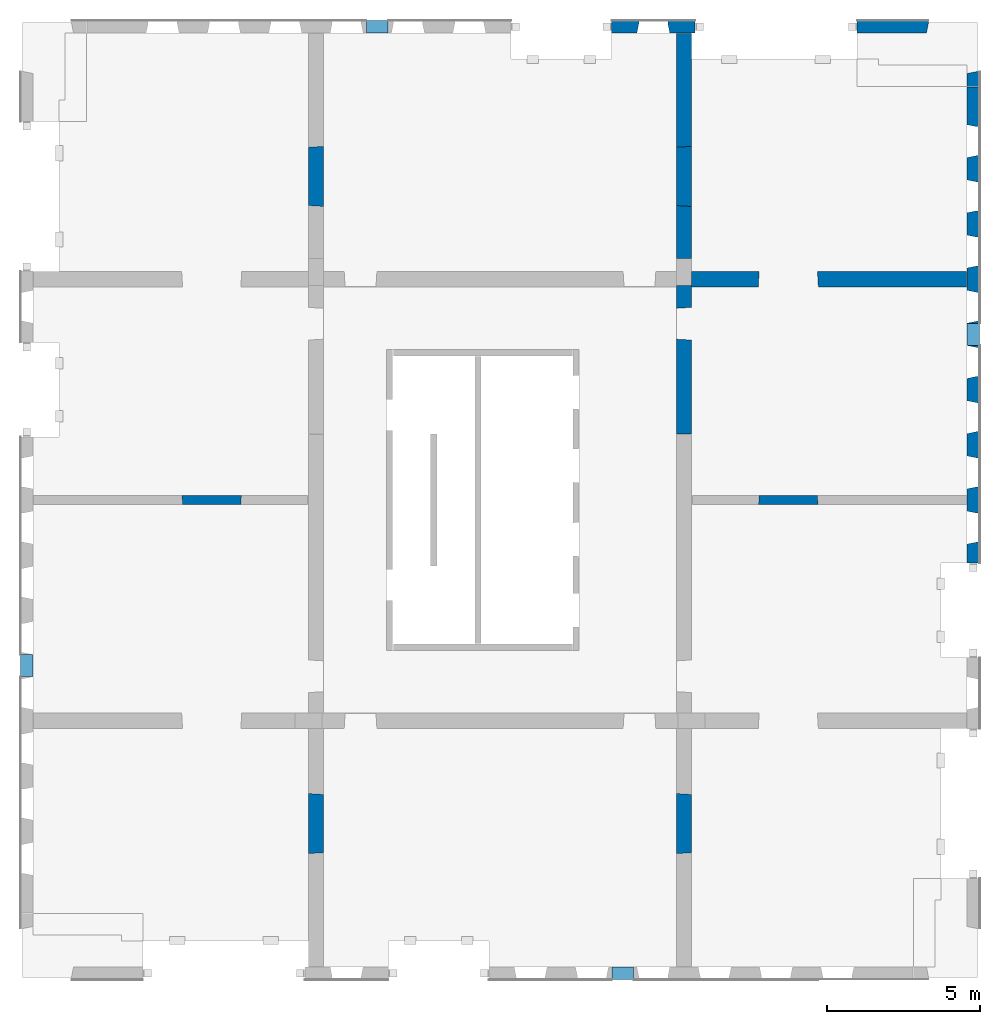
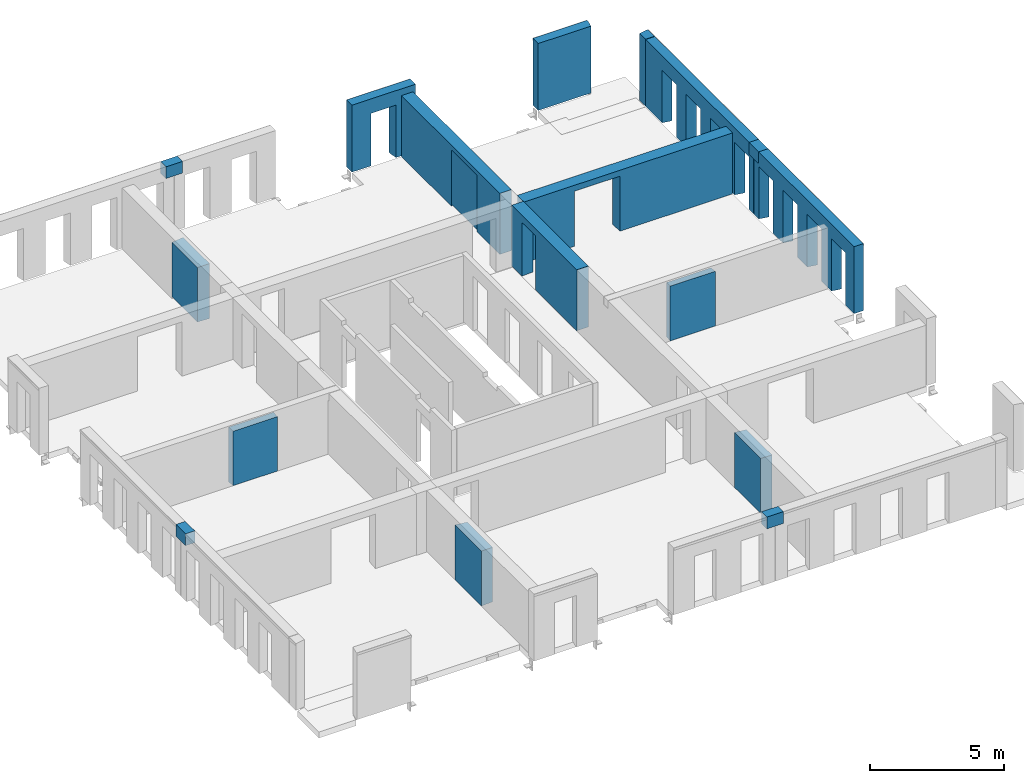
# One storey, part 4 of 6: 18 walls, 16 openings.
"""IFC2X3 building model written with IfcOpenShell, lengths in millimetres."""

from ifc_helpers import new_model, entity, si_unit, converted_unit, derived_unit, direction, frame, frame_2d, origin, place, context, subcontext, project, spatial, rectangle, extrude, faceted_brep, material, layer, layer_set, layer_usage, type_object, element, save


model = new_model("IFC2X3")

# Units and contexts
model_context = context("Model", 3, precision=0.01, world=origin(), true_north=direction((6.12303176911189e-17, 1.0)))
body_context = subcontext(model_context, "Body", "Model", "MODEL_VIEW")
ifc_project = project(units=[si_unit("LENGTHUNIT", "METRE", prefix="MILLI"), si_unit("AREAUNIT", "SQUARE_METRE"), si_unit("VOLUMEUNIT", "CUBIC_METRE"), converted_unit("PLANEANGLEUNIT", "DEGREE", entity("IfcRatioMeasure", 0.0174532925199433), si_unit("PLANEANGLEUNIT", "RADIAN"), dimensions=[0, 0, 0, 0, 0, 0, 0]), si_unit("MASSUNIT", "GRAM", prefix="KILO"), derived_unit("MASSDENSITYUNIT", [(si_unit("MASSUNIT", "GRAM", prefix="KILO"), 1), (si_unit("LENGTHUNIT", "METRE"), -3)]), si_unit("TIMEUNIT", "SECOND"), si_unit("FREQUENCYUNIT", "HERTZ"), si_unit("THERMODYNAMICTEMPERATUREUNIT", "DEGREE_CELSIUS"), derived_unit("THERMALTRANSMITTANCEUNIT", [(si_unit("MASSUNIT", "GRAM", prefix="KILO"), 1), (si_unit("THERMODYNAMICTEMPERATUREUNIT", "KELVIN"), -1), (si_unit("TIMEUNIT", "SECOND"), -3)]), derived_unit("VOLUMETRICFLOWRATEUNIT", [(si_unit("LENGTHUNIT", "METRE"), 3), (si_unit("TIMEUNIT", "SECOND"), -1)]), si_unit("ELECTRICCURRENTUNIT", "AMPERE"), si_unit("ELECTRICVOLTAGEUNIT", "VOLT"), si_unit("POWERUNIT", "WATT"), si_unit("FORCEUNIT", "NEWTON", prefix="KILO"), si_unit("ILLUMINANCEUNIT", "LUX"), si_unit("LUMINOUSFLUXUNIT", "LUMEN"), si_unit("LUMINOUSINTENSITYUNIT", "CANDELA"), derived_unit("USERDEFINED", [(si_unit("MASSUNIT", "GRAM", prefix="KILO"), -1), (si_unit("LENGTHUNIT", "METRE"), -2), (si_unit("TIMEUNIT", "SECOND"), 3), (si_unit("LUMINOUSFLUXUNIT", "LUMEN"), 1)]), derived_unit("LINEARVELOCITYUNIT", [(si_unit("LENGTHUNIT", "METRE"), 1), (si_unit("TIMEUNIT", "SECOND"), -1)]), si_unit("PRESSUREUNIT", "PASCAL"), derived_unit("USERDEFINED", [(si_unit("LENGTHUNIT", "METRE"), -2), (si_unit("MASSUNIT", "GRAM", prefix="KILO"), 1), (si_unit("TIMEUNIT", "SECOND"), -2)])], contexts=[model_context])

# Site, building, storey
site_placement = place(None, origin())
site = spatial("IfcSite", under=ifc_project, at=site_placement, Name="Default", CompositionType="ELEMENT")
building_placement = place(site_placement, origin())
building = spatial("IfcBuilding", under=site, at=building_placement, Name="niet gebruiken", CompositionType="ELEMENT")
storey_placement = place(building_placement, frame((0.0, 0.0, 21060.0)))
storey = spatial("IfcBuildingStorey", under=building, at=storey_placement, Name="06 zesde verdieping", CompositionType="ELEMENT", Elevation=21060.0)

# Wall, opening
ifc_material_1 = material(Name="NLRS_f2_beton prefab")
ifc_layer_1 = layer(ifc_material_1, 400.0)
ifc_layer_set_1 = layer_set([ifc_layer_1], Name="Basic Wall:NLRS_21.21_WA_beton prefab d=400/420_gen")
ifc_layer_usage_1 = layer_usage(ifc_layer_set_1, "AXIS2", "NEGATIVE", 200.0)
wall_type_1 = type_object("IfcWallType", Name="Basic Wall:NLRS_21.21_WA_beton prefab d=400/420_gen", PredefinedType="STANDARD", material=ifc_layer_set_1)
wall_1_placement = place(storey_placement, frame((145390.0, 32930.0, -50.0)))
wall_1 = element("IfcWallStandardCase", 1, at=wall_1_placement, inside=storey, type_object=wall_type_1, material=ifc_layer_usage_1, Name="Basic Wall:NLRS_21.21_WA_beton prefab d=400/420_gen", ObjectType="Basic Wall:NLRS_21.21_WA_beton prefab d=400/420_gen", context=body_context, shape_type="SweptSolid", body=[
    extrude(rectangle(XDim=2720.00000000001, YDim=399.999999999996, at=frame_2d((1360.0, -4.54747350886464e-13), x_axis=(-1.0, 0.0))), origin(), (0.0, 0.0, 1.0), 3040.0),
])
opening_1_placement = place(wall_1_placement, frame((825.0, -200.0, -20.0)))
element("IfcOpeningElement", 2, at=opening_1_placement, cuts=wall_1, Name="Basic Wall:NLRS_21.21_WA_beton prefab d=400/420_gen", ObjectType="Opening", context=body_context, shape_type="Brep", body=[
    faceted_brep([(0.0, 0.0, 2405.0), (0.0, 0.0, 0.0), (1070.0, 0.0, 0.0), (1070.0, 0.0, 2405.0), (1005.0, 319.0, 2370.0), (65.0, 319.0, 2370.0), (1005.0, 319.0, 0.0), (65.0, 319.0, 0.0), (65.0, 400.0, 0.0), (1005.0, 400.0, 0.0), (65.0, 400.0, 2370.0), (1005.0, 400.0, 2370.0)], [[[0, 1, 2, 3]], [[3, 4, 5, 0]], [[2, 6, 4, 3]], [[1, 7, 8, 9, 6, 2]], [[0, 5, 7, 1]], [[10, 11, 9, 8]], [[10, 5, 4, 11]], [[11, 4, 6, 9]], [[8, 7, 5, 10]]]),
])

ifc_layer_usage_2 = layer_usage(ifc_layer_set_1, "AXIS2", "NEGATIVE", 200.0)
wall_2_placement = place(storey_placement, frame((153390.0, 32930.0, -50.0)))
wall_2 = element("IfcWallStandardCase", 3, at=wall_2_placement, inside=storey, type_object=wall_type_1, material=ifc_layer_usage_2, Name="Basic Wall:NLRS_21.21_WA_beton prefab d=400/420_gen", ObjectType="Basic Wall:NLRS_21.21_WA_beton prefab d=400/420_gen", context=body_context, shape_type="SweptSolid", body=[
    extrude(rectangle(XDim=2330.00000000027, YDim=400.000000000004, at=frame_2d((1165.00000000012, 7.38964445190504e-13), x_axis=(-1.0, 0.0))), origin(), (0.0, 0.0, 1.0), 3040.0),
])
opening_2_placement = place(wall_2_placement, frame((2265.0, -200.0, 0.0)))
element("IfcOpeningElement", 4, at=opening_2_placement, cuts=wall_2, Name="Basic Wall:NLRS_21.21_WA_beton prefab d=400/420_gen", ObjectType="Opening", context=body_context, shape_type="Brep", body=[
    faceted_brep([(65.0, 0.0, 3040.0), (65.0, 319.0, 3040.0), (0.0, 0.0, 3040.0), (65.0, 0.0, 0.0), (0.0, 0.0, 0.0), (65.0, 319.0, 0.0)], [[[0, 1, 2]], [[3, 4, 5]], [[2, 4, 3, 0]], [[0, 3, 5, 1]], [[1, 5, 4, 2]]]),
])

ifc_layer_usage_3 = layer_usage(ifc_layer_set_1, "AXIS2", "NEGATIVE", 200.0)
wall_3_placement = place(storey_placement, frame((157180.0, 31470.0, -50.0), z_axis=(0.0, 0.0, 1.0), x_axis=(0.0, -1.0, 0.0)))
wall_3 = element("IfcWallStandardCase", 5, at=wall_3_placement, inside=storey, type_object=wall_type_1, material=ifc_layer_usage_3, Name="Basic Wall:NLRS_21.21_WA_beton prefab d=400/420_gen", ObjectType="Basic Wall:NLRS_21.21_WA_beton prefab d=400/420_gen", context=body_context, shape_type="SweptSolid", body=[
    extrude(rectangle(XDim=490.000000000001, YDim=399.999999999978, at=frame_2d((245.000000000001, -7.21911419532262e-12), x_axis=(-1.0, 0.0))), origin(), (0.0, 0.0, 1.0), 3040.0),
])
opening_3_placement = place(wall_3_placement, frame((65.0, -200.0, 0.0)))
element("IfcOpeningElement", 6, at=opening_3_placement, cuts=wall_3, Name="Basic Wall:NLRS_21.21_WA_beton prefab d=400/420_gen", ObjectType="Opening", context=body_context, shape_type="Brep", body=[
    faceted_brep([(-65.0, 0.0, 3040.0), (0.0, 0.0, 3040.0), (-65.0, 319.0, 3040.0), (-65.0, 0.0, 0.0), (-65.0, 319.0, 0.0), (0.0, 0.0, 0.0)], [[[0, 1, 2]], [[3, 4, 5]], [[1, 0, 3, 5]], [[0, 2, 4, 3]], [[2, 1, 5, 4]]]),
])

# Wall, openings
ifc_layer_usage_4 = layer_usage(ifc_layer_set_1, "AXIS2", "NEGATIVE", 200.0)
wall_4_placement = place(storey_placement, frame((157180.0, 30960.0, -50.0), z_axis=(0.0, 0.0, 1.0), x_axis=(0.0, -1.0, 0.0)))
wall_4 = element("IfcWallStandardCase", 7, at=wall_4_placement, inside=storey, type_object=wall_type_1, material=ifc_layer_usage_4, Name="Basic Wall:NLRS_21.21_WA_beton prefab d=400/420_gen", ObjectType="Basic Wall:NLRS_21.21_WA_beton prefab d=400/420_gen", context=body_context, shape_type="SweptSolid", body=[
    extrude(rectangle(XDim=8049.99999999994, YDim=399.999999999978, at=frame_2d((4024.99999999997, 8.5265128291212e-14), x_axis=(-1.0, 0.0))), origin(), (0.0, 0.0, 1.0), 3040.0),
])
opening_4_placement = place(wall_4_placement, frame((2295.0, -200.0, -20.0)))
element("IfcOpeningElement", 8, at=opening_4_placement, cuts=wall_4, Name="Basic Wall:NLRS_21.21_WA_beton prefab d=400/420_gen", ObjectType="Opening", context=body_context, shape_type="Brep", body=[
    faceted_brep([(-1070.0, 0.0, 2405.0), (-1070.0, 0.0, 0.0), (0.0, 0.0, 0.0), (0.0, 0.0, 2405.0), (-65.0, 319.0, 2370.0), (-1005.0, 319.0, 2370.0), (-65.0, 319.0, 0.0), (-1005.0, 319.0, 0.0), (-1005.0, 400.0, 0.0), (-65.0, 400.0, 0.0), (-1005.0, 400.0, 2370.0), (-65.0, 400.0, 2370.0)], [[[0, 1, 2, 3]], [[3, 4, 5, 0]], [[2, 6, 4, 3]], [[1, 7, 8, 9, 6, 2]], [[0, 5, 7, 1]], [[10, 11, 9, 8]], [[10, 5, 4, 11]], [[11, 4, 6, 9]], [[8, 7, 5, 10]]]),
])
opening_5_placement = place(wall_4_placement, frame((4095.0, -200.0, -20.0)))
element("IfcOpeningElement", 9, at=opening_5_placement, cuts=wall_4, Name="Basic Wall:NLRS_21.21_WA_beton prefab d=400/420_gen", ObjectType="Opening", context=body_context, shape_type="Brep", body=[
    faceted_brep([(-1070.0, 0.0, 2405.0), (-1070.0, 0.0, 0.0), (0.0, 0.0, 0.0), (0.0, 0.0, 2405.0), (-65.0, 319.0, 2370.0), (-1005.0, 319.0, 2370.0), (-65.0, 319.0, 0.0), (-1005.0, 319.0, 0.0), (-1005.0, 400.0, 0.0), (-65.0, 400.0, 0.0), (-1005.0, 400.0, 2370.0), (-65.0, 400.0, 2370.0)], [[[0, 1, 2, 3]], [[3, 4, 5, 0]], [[2, 6, 4, 3]], [[1, 7, 8, 9, 6, 2]], [[0, 5, 7, 1]], [[10, 11, 9, 8]], [[10, 5, 4, 11]], [[11, 4, 6, 9]], [[8, 7, 5, 10]]]),
])
opening_6_placement = place(wall_4_placement, frame((5895.0, -200.0, -20.0)))
element("IfcOpeningElement", 10, at=opening_6_placement, cuts=wall_4, Name="Basic Wall:NLRS_21.21_WA_beton prefab d=400/420_gen", ObjectType="Opening", context=body_context, shape_type="Brep", body=[
    faceted_brep([(-1070.0, 0.0, 2405.0), (-1070.0, 0.0, 0.0), (0.0, 0.0, 0.0), (0.0, 0.0, 2405.0), (-65.0, 319.0, 2370.0), (-1005.0, 319.0, 2370.0), (-65.0, 319.0, 0.0), (-1005.0, 319.0, 0.0), (-1005.0, 400.0, 0.0), (-65.0, 400.0, 0.0), (-1005.0, 400.0, 2370.0), (-65.0, 400.0, 2370.0)], [[[0, 1, 2, 3]], [[3, 4, 5, 0]], [[2, 6, 4, 3]], [[1, 7, 8, 9, 6, 2]], [[0, 5, 7, 1]], [[10, 11, 9, 8]], [[10, 5, 4, 11]], [[11, 4, 6, 9]], [[8, 7, 5, 10]]]),
])
opening_7_placement = place(wall_4_placement, frame((7695.0, -200.0, -20.0)))
element("IfcOpeningElement", 11, at=opening_7_placement, cuts=wall_4, Name="Basic Wall:NLRS_21.21_WA_beton prefab d=400/420_gen", ObjectType="Opening", context=body_context, shape_type="Brep", body=[
    faceted_brep([(-1070.0, 0.0, 2405.0), (-1070.0, 0.0, 0.0), (0.0, 0.0, 0.0), (0.0, 0.0, 2405.0), (-65.0, 319.0, 2370.0), (-1005.0, 319.0, 2370.0), (-65.0, 319.0, 0.0), (-1005.0, 319.0, 0.0), (-1005.0, 400.0, 0.0), (-65.0, 400.0, 0.0), (-1005.0, 400.0, 2370.0), (-65.0, 400.0, 2370.0)], [[[0, 1, 2, 3]], [[3, 4, 5, 0]], [[2, 6, 4, 3]], [[1, 7, 8, 9, 6, 2]], [[0, 5, 7, 1]], [[10, 11, 9, 8]], [[10, 5, 4, 11]], [[11, 4, 6, 9]], [[8, 7, 5, 10]]]),
])
opening_8_placement = place(wall_4_placement, origin())
element("IfcOpeningElement", 12, at=opening_8_placement, cuts=wall_4, Name="Basic Wall:NLRS_21.21_WA_beton prefab d=400/420_gen", ObjectType="Opening", context=body_context, shape_type="SweptSolid", body=[
    extrude(rectangle(XDim=535.0, YDim=344.999999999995, at=frame_2d((0.0, -2.17426077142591e-12), x_axis=(1.0, 0.0))), frame((7877.49999999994, 200.0, 2772.5), z_axis=(0.0, -1.0, 0.0), x_axis=(0.0, 0.0, 1.0)), (0.0, 0.0, 1.0), 400.0),
])

ifc_layer_usage_5 = layer_usage(ifc_layer_set_1, "AXIS2", "NEGATIVE", 200.0)
wall_5_placement = place(storey_placement, frame((157180.0, 22890.0, -50.0), z_axis=(0.0, 0.0, 1.0), x_axis=(0.0, -1.0, 0.0)))
wall_5 = element("IfcWallStandardCase", 13, at=wall_5_placement, inside=storey, type_object=wall_type_1, material=ifc_layer_usage_5, Name="Basic Wall:NLRS_21.21_WA_beton prefab d=400/420_gen", ObjectType="Basic Wall:NLRS_21.21_WA_beton prefab d=400/420_gen", context=body_context, shape_type="SweptSolid", body=[
    extrude(rectangle(XDim=7450.00000000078, YDim=399.999999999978, at=frame_2d((3725.00000000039, 1.35429445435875e-11), x_axis=(-1.0, 0.0))), origin(), (0.0, 0.0, 1.0), 3040.0),
])
opening_9_placement = place(wall_5_placement, frame((6825.0, -200.0, -20.0)))
element("IfcOpeningElement", 14, at=opening_9_placement, cuts=wall_5, Name="Basic Wall:NLRS_21.21_WA_beton prefab d=400/420_gen", ObjectType="Opening", context=body_context, shape_type="Brep", body=[
    faceted_brep([(-1070.0, 0.0, 2405.0), (-1070.0, 0.0, 0.0), (0.0, 0.0, 0.0), (0.0, 0.0, 2405.0), (-65.0, 319.0, 2370.0), (-1005.0, 319.0, 2370.0), (-65.0, 319.0, 0.0), (-1005.0, 319.0, 0.0), (-1005.0, 400.0, 0.0), (-65.0, 400.0, 0.0), (-1005.0, 400.0, 2370.0), (-65.0, 400.0, 2370.0)], [[[0, 1, 2, 3]], [[3, 4, 5, 0]], [[2, 6, 4, 3]], [[1, 7, 8, 9, 6, 2]], [[0, 5, 7, 1]], [[10, 11, 9, 8]], [[10, 5, 4, 11]], [[11, 4, 6, 9]], [[8, 7, 5, 10]]]),
])
opening_10_placement = place(wall_5_placement, frame((3225.0, -200.0, -20.0)))
element("IfcOpeningElement", 15, at=opening_10_placement, cuts=wall_5, Name="Basic Wall:NLRS_21.21_WA_beton prefab d=400/420_gen", ObjectType="Opening", context=body_context, shape_type="Brep", body=[
    faceted_brep([(-1070.0, 0.0, 2405.0), (-1070.0, 0.0, 0.0), (0.0, 0.0, 0.0), (0.0, 0.0, 2405.0), (-65.0, 319.0, 2370.0), (-1005.0, 319.0, 2370.0), (-65.0, 319.0, 0.0), (-1005.0, 319.0, 0.0), (-1005.0, 400.0, 0.0), (-65.0, 400.0, 0.0), (-1005.0, 400.0, 2370.0), (-65.0, 400.0, 2370.0)], [[[0, 1, 2, 3]], [[3, 4, 5, 0]], [[2, 6, 4, 3]], [[1, 7, 8, 9, 6, 2]], [[0, 5, 7, 1]], [[10, 11, 9, 8]], [[10, 5, 4, 11]], [[11, 4, 6, 9]], [[8, 7, 5, 10]]]),
])
opening_11_placement = place(wall_5_placement, frame((1425.0, -200.0, -20.0)))
element("IfcOpeningElement", 16, at=opening_11_placement, cuts=wall_5, Name="Basic Wall:NLRS_21.21_WA_beton prefab d=400/420_gen", ObjectType="Opening", context=body_context, shape_type="Brep", body=[
    faceted_brep([(-1070.0, 0.0, 2405.0), (-1070.0, 0.0, 0.0), (0.0, 0.0, 0.0), (0.0, 0.0, 2405.0), (-65.0, 319.0, 2370.0), (-1005.0, 319.0, 2370.0), (-65.0, 319.0, 0.0), (-1005.0, 319.0, 0.0), (-1005.0, 400.0, 0.0), (-65.0, 400.0, 0.0), (-1005.0, 400.0, 2370.0), (-65.0, 400.0, 2370.0)], [[[0, 1, 2, 3]], [[3, 4, 5, 0]], [[2, 6, 4, 3]], [[1, 7, 8, 9, 6, 2]], [[0, 5, 7, 1]], [[10, 11, 9, 8]], [[10, 5, 4, 11]], [[11, 4, 6, 9]], [[8, 7, 5, 10]]]),
])
opening_12_placement = place(wall_5_placement, frame((5025.0, -200.0, -20.0)))
element("IfcOpeningElement", 17, at=opening_12_placement, cuts=wall_5, Name="Basic Wall:NLRS_21.21_WA_beton prefab d=400/420_gen", ObjectType="Opening", context=body_context, shape_type="Brep", body=[
    faceted_brep([(-1070.0, 0.0, 2405.0), (-1070.0, 0.0, 0.0), (0.0, 0.0, 0.0), (0.0, 0.0, 2405.0), (-65.0, 319.0, 2370.0), (-1005.0, 319.0, 2370.0), (-65.0, 319.0, 0.0), (-1005.0, 319.0, 0.0), (-1005.0, 400.0, 0.0), (-65.0, 400.0, 0.0), (-1005.0, 400.0, 2370.0), (-65.0, 400.0, 2370.0)], [[[0, 1, 2, 3]], [[3, 4, 5, 0]], [[2, 6, 4, 3]], [[1, 7, 8, 9, 6, 2]], [[0, 5, 7, 1]], [[10, 11, 9, 8]], [[10, 5, 4, 11]], [[11, 4, 6, 9]], [[8, 7, 5, 10]]]),
])
opening_13_placement = place(wall_5_placement, origin())
element("IfcOpeningElement", 18, at=opening_13_placement, cuts=wall_5, Name="Basic Wall:NLRS_21.21_WA_beton prefab d=400/420_gen", ObjectType="Opening", context=body_context, shape_type="SweptSolid", body=[
    extrude(rectangle(XDim=535.0, YDim=345.0, at=frame_2d((0.0, 0.0), x_axis=(0.0, 1.0))), frame((172.5, 200.0, 2772.5), z_axis=(0.0, -1.0, 0.0), x_axis=(-1.0, 0.0, 0.0)), (0.0, 0.0, 1.0), 400.0),
])

# Wall, opening
ifc_layer_2 = layer(ifc_material_1, 500.0)
ifc_layer_set_2 = layer_set([ifc_layer_2], Name="Basic Wall:NLRS_22.21_WA_beton prefab d=500_gen")
ifc_layer_usage_6 = layer_usage(ifc_layer_set_2, "AXIS2", "NEGATIVE", 250.0)
wall_type_2 = type_object("IfcWallType", Name="Basic Wall:NLRS_22.21_WA_beton prefab d=500_gen", PredefinedType="STANDARD", material=ifc_layer_set_2)
wall_6_placement = place(storey_placement, frame((156960.0, 24700.0, -70.0), z_axis=(0.0, 0.0, 1.0), x_axis=(-1.0, 0.0, 0.0)))
wall_6 = element("IfcWallStandardCase", 19, at=wall_6_placement, inside=storey, type_object=wall_type_2, material=ifc_layer_usage_6, Name="Basic Wall:NLRS_22.21_WA_beton prefab d=500_gen", ObjectType="Basic Wall:NLRS_22.21_WA_beton prefab d=500_gen", context=body_context, shape_type="SweptSolid", body=[
    extrude(rectangle(XDim=8960.00000000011, YDim=499.999999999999, at=frame_2d((4480.00000000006, 5.6843418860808e-13), x_axis=(-1.0, 0.0))), origin(), (0.0, 0.0, 1.0), 2770.0),
])
opening_14_placement = place(wall_6_placement, frame((6790.0, 250.0, 0.0)))
element("IfcOpeningElement", 20, at=opening_14_placement, cuts=wall_6, Name="Basic Wall:NLRS_22.21_WA_beton prefab d=500_gen", ObjectType="Opening", context=body_context, shape_type="Brep", body=[
    faceted_brep([(-30.0, -500.0, 2470.0), (-1930.0, -500.0, 2470.0), (-1930.0, -500.0, 0.0), (-30.0, -500.0, 0.0), (0.0, 0.0, 2500.0), (0.0, 0.0, 0.0), (-1960.0, 0.0, 0.0), (-1960.0, 0.0, 2500.0)], [[[0, 1, 2, 3]], [[4, 5, 6, 7]], [[4, 7, 1, 0]], [[7, 6, 2, 1]], [[6, 5, 3, 2]], [[5, 4, 0, 3]]]),
])

ifc_layer_usage_7 = layer_usage(ifc_layer_set_2, "AXIS2", "NEGATIVE", 250.0)
wall_7_placement = place(storey_placement, frame((147750.0, 25380.0, -70.0), z_axis=(0.0, 0.0, 1.0), x_axis=(0.0, 1.0, 0.0)))
wall_7 = element("IfcWallStandardCase", 21, at=wall_7_placement, inside=storey, type_object=wall_type_2, material=ifc_layer_usage_7, Name="Basic Wall:NLRS_22.21_WA_beton prefab d=500_gen", ObjectType="Basic Wall:NLRS_22.21_WA_beton prefab d=500_gen", context=body_context, shape_type="SweptSolid", body=[
    extrude(rectangle(XDim=7329.99999999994, YDim=499.99999999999, at=frame_2d((3664.99999999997, 5.88329385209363e-12), x_axis=(-1.0, 0.0))), origin(), (0.0, 0.0, 1.0), 2770.0),
])
opening_15_placement = place(wall_7_placement, frame((1690.0, 250.0, 0.0)))
element("IfcOpeningElement", 22, at=opening_15_placement, cuts=wall_7, Name="Basic Wall:NLRS_22.21_WA_beton prefab d=500_gen", ObjectType="Opening", context=body_context, shape_type="Brep", body=[
    faceted_brep([(1930.0, 0.0, 2470.0), (1930.0, 0.0, 0.0), (30.0, 0.0, 0.0), (30.0, 0.0, 2470.0), (1960.0, -500.0, 2500.0), (0.0, -500.0, 2500.0), (0.0, -500.0, 0.0), (1960.0, -500.0, 0.0)], [[[0, 1, 2, 3]], [[4, 5, 6, 7]], [[4, 0, 3, 5]], [[5, 3, 2, 6]], [[6, 2, 1, 7]], [[7, 1, 0, 4]]]),
])

ifc_layer_usage_8 = layer_usage(ifc_layer_set_2, "AXIS2", "NEGATIVE", 250.0)
wall_8_placement = place(storey_placement, frame((147750.0, 24500.0, -70.0), z_axis=(0.0, 0.0, 1.0), x_axis=(0.0, -1.0, 0.0)))
wall_8 = element("IfcWallStandardCase", 23, at=wall_8_placement, inside=storey, type_object=wall_type_2, material=ifc_layer_usage_8, Name="Basic Wall:NLRS_22.21_WA_beton prefab d=500_gen", ObjectType="Basic Wall:NLRS_22.21_WA_beton prefab d=500_gen", context=body_context, shape_type="SweptSolid", body=[
    extrude(rectangle(XDim=4840.00000000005, YDim=499.99999999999, at=frame_2d((2420.00000000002, 0.0), x_axis=(-1.0, 0.0))), origin(), (0.0, 0.0, 1.0), 2770.0),
])
opening_16_placement = place(wall_8_placement, frame((1786.0, -250.0, 0.0)))
element("IfcOpeningElement", 24, at=opening_16_placement, cuts=wall_8, Name="Basic Wall:NLRS_22.21_WA_beton prefab d=500_gen", ObjectType="Opening", context=body_context, shape_type="Brep", body=[
    faceted_brep([(-1066.0, 500.0, 2478.0), (-1066.0, 500.0, 0.0), (-1036.0, 0.0, 0.0), (-1036.0, 0.0, 2448.0), (0.0, 500.0, 0.0), (-30.0, 0.0, 0.0), (-30.0, 0.0, 2448.0), (0.0, 500.0, 2478.0)], [[[0, 1, 2, 3]], [[1, 4, 5, 2]], [[6, 3, 2, 5]], [[7, 4, 1, 0]], [[7, 0, 3, 6]], [[4, 7, 6, 5]]]),
])

# Walls
ifc_material_2 = material(Name="NLRS_f2_beton prefab dichtstorten")
wall_type_3 = type_object("IfcWallType", Name="Parametric Wall:NLRS_22.21_WA_beton prefab d=500 1900x2470_gen", PredefinedType="NOTDEFINED", material=ifc_material_2)
wall_9_placement = place(storey_placement, frame((135500.0, 5970.0, -70.0), z_axis=(0.0, 0.0, 1.0), x_axis=(0.0, 1.0, 0.0)))
element("IfcWall", 25, at=wall_9_placement, inside=storey, type_object=wall_type_3, material=ifc_material_2, Name="Parametric Wall:NLRS_22.21_WA_beton prefab d=500 1900x2470_gen", ObjectType="Parametric Wall:NLRS_22.21_WA_beton prefab d=500 1900x2470_gen", context=body_context, shape_type="Brep", body=[
    faceted_brep([(1960.0, 0.0, 2500.0), (1960.0, 0.0, 0.0), (0.0, 0.0, 0.0), (0.0, 0.0, 2500.0), (1930.0, -500.0, 2470.0), (30.0, -500.0, 2470.0), (30.0, -500.0, 0.0), (1930.0, -500.0, 0.0)], [[[0, 1, 2, 3]], [[4, 5, 6, 7]], [[4, 7, 1, 0]], [[7, 6, 2, 1]], [[6, 5, 3, 2]], [[5, 4, 0, 3]]]),
])
for number, where, z_axis, x_axis in (
    (26, (147500.0, 27070.0, 20.0), (0.0, 0.0, 1.0), (0.0, 1.0, 0.0)),
    (27, (135500.0, 27070.0, 20.0), (0.0, 0.0, 1.0), (0.0, 1.0, 0.0)),
):
    element("IfcWall", number, at=place(storey_placement, frame(where, z_axis=z_axis, x_axis=x_axis)), inside=storey, type_object=wall_type_3, material=ifc_material_2, Name="Parametric Wall:NLRS_22.21_WA_beton prefab d=500 1900x2470_gen", ObjectType="Parametric Wall:NLRS_22.21_WA_beton prefab d=500 1900x2470_gen", context=body_context, shape_type="Brep", body=[
        faceted_brep([(0.0, -500.0, 2500.0), (0.0, -500.0, 0.0), (1960.0, -500.0, 0.0), (1960.0, -500.0, 2500.0), (30.0, 0.0, 2470.0), (1930.0, 0.0, 2470.0), (1930.0, 0.0, 0.0), (30.0, 0.0, 0.0)], [[[0, 1, 2, 3]], [[4, 5, 6, 7]], [[4, 7, 1, 0]], [[7, 6, 2, 1]], [[6, 5, 3, 2]], [[5, 4, 0, 3]]]),
    ])
wall_10_placement = place(storey_placement, frame((147500.0, 5970.0, -70.0), z_axis=(0.0, 0.0, 1.0), x_axis=(0.0, 1.0, 0.0)))
element("IfcWall", 28, at=wall_10_placement, inside=storey, type_object=wall_type_3, material=ifc_material_2, Name="Parametric Wall:NLRS_22.21_WA_beton prefab d=500 1900x2470_gen", ObjectType="Parametric Wall:NLRS_22.21_WA_beton prefab d=500 1900x2470_gen", context=body_context, shape_type="Brep", body=[
    faceted_brep([(1960.0, 0.0, 2500.0), (1960.0, 0.0, 0.0), (0.0, 0.0, 0.0), (0.0, 0.0, 2500.0), (1930.0, -500.0, 2470.0), (30.0, -500.0, 2470.0), (30.0, -500.0, 0.0), (1930.0, -500.0, 0.0)], [[[0, 1, 2, 3]], [[4, 5, 6, 7]], [[4, 7, 1, 0]], [[7, 6, 2, 1]], [[6, 5, 3, 2]], [[5, 4, 0, 3]]]),
])
wall_11_placement = place(storey_placement, frame((131382.0, 17350.0, -70.0)))
element("IfcWall", 29, at=wall_11_placement, inside=storey, type_object=wall_type_3, material=ifc_material_2, Name="Parametric Wall:NLRS_22.21_WA_beton prefab d=500 1900x2470_gen", ObjectType="Parametric Wall:NLRS_22.21_WA_beton prefab d=500 1900x2470_gen", context=body_context, shape_type="Brep", body=[
    faceted_brep([(1936.0, 300.0, 2488.0), (1936.0, 300.0, 0.0), (0.0, 300.0, 0.0), (0.0, 300.0, 2488.0), (1918.0, 0.0, 2470.0), (18.0, 0.0, 2470.0), (18.0, 0.0, 0.0), (1918.0, 0.0, 0.0)], [[[0, 1, 2, 3]], [[4, 5, 6, 7]], [[4, 7, 1, 0]], [[7, 6, 2, 1]], [[6, 5, 3, 2]], [[5, 4, 0, 3]]]),
])
wall_12_placement = place(storey_placement, frame((150182.0, 17350.0, -70.0)))
element("IfcWall", 30, at=wall_12_placement, inside=storey, type_object=wall_type_3, material=ifc_material_2, Name="Parametric Wall:NLRS_22.21_WA_beton prefab d=500 1900x2470_gen", ObjectType="Parametric Wall:NLRS_22.21_WA_beton prefab d=500 1900x2470_gen", context=body_context, shape_type="Brep", body=[
    faceted_brep([(0.0, 0.0, 2488.0), (0.0, 0.0, 0.0), (1936.0, 0.0, 0.0), (1936.0, 0.0, 2488.0), (18.0, 300.0, 2470.0), (1918.0, 300.0, 2470.0), (1918.0, 300.0, 0.0), (18.0, 300.0, 0.0)], [[[0, 1, 2, 3]], [[4, 5, 6, 7]], [[4, 7, 1, 0]], [[7, 6, 2, 1]], [[6, 5, 3, 2]], [[5, 4, 0, 3]]]),
])
ifc_material_3 = material(Name="NLRS_f2_beton ihwg")
ifc_layer_3 = layer(ifc_material_3, 400.0)
ifc_layer_set_3 = layer_set([ifc_layer_3], Name="Basic Wall:NLRS_21.21_WA_beton ihwg d=400_gen")
ifc_layer_usage_9 = layer_usage(ifc_layer_set_3, "AXIS2", "NEGATIVE", 200.0)
wall_type_4 = type_object("IfcWallType", Name="Basic Wall:NLRS_21.21_WA_beton ihwg d=400_gen", PredefinedType="STANDARD", material=ifc_layer_set_3)
wall_13_placement = place(storey_placement, frame((137395.0, 32930.0, 2455.0)))
element("IfcWallStandardCase", 31, at=wall_13_placement, inside=storey, type_object=wall_type_4, material=ifc_layer_usage_9, Name="Basic Wall:NLRS_21.21_WA_beton ihwg d=400_gen", ObjectType="Basic Wall:NLRS_21.21_WA_beton ihwg d=400_gen", context=body_context, shape_type="SweptSolid", body=[
    extrude(rectangle(XDim=710.000000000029, YDim=399.999999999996, at=frame_2d((355.000000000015, 0.0), x_axis=(-1.0, 0.0))), origin(), (0.0, 0.0, 1.0), 535.0),
])
ifc_layer_usage_10 = layer_usage(ifc_layer_set_3, "AXIS2", "NEGATIVE", 200.0)
wall_14_placement = place(storey_placement, frame((146105.0, 2070.0, 2455.0), z_axis=(0.0, 0.0, 1.0), x_axis=(-1.0, 0.0, 0.0)))
element("IfcWallStandardCase", 32, at=wall_14_placement, inside=storey, type_object=wall_type_4, material=ifc_layer_usage_10, Name="Basic Wall:NLRS_21.21_WA_beton ihwg d=400_gen", ObjectType="Basic Wall:NLRS_21.21_WA_beton ihwg d=400_gen", context=body_context, shape_type="SweptSolid", body=[
    extrude(rectangle(XDim=710.000000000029, YDim=400.0, at=frame_2d((355.000000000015, -2.8421709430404e-14), x_axis=(-1.0, 0.0))), origin(), (0.0, 0.0, 1.0), 535.0),
])
ifc_layer_usage_11 = layer_usage(ifc_layer_set_3, "AXIS2", "NEGATIVE", 200.0)
wall_15_placement = place(storey_placement, frame((126320.0, 11745.0, 2455.0), z_axis=(0.0, 0.0, 1.0), x_axis=(0.0, 1.0, 0.0)))
element("IfcWallStandardCase", 33, at=wall_15_placement, inside=storey, type_object=wall_type_4, material=ifc_layer_usage_11, Name="Basic Wall:NLRS_21.21_WA_beton ihwg d=400_gen", ObjectType="Basic Wall:NLRS_21.21_WA_beton ihwg d=400_gen", context=body_context, shape_type="SweptSolid", body=[
    extrude(rectangle(XDim=710.000000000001, YDim=400.000000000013, at=frame_2d((355.000000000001, 0.0), x_axis=(-1.0, 0.0))), origin(), (0.0, 0.0, 1.0), 535.0),
])
ifc_layer_usage_12 = layer_usage(ifc_layer_set_3, "AXIS2", "NEGATIVE", 200.0)
wall_16_placement = place(storey_placement, frame((157180.0, 23255.0, 2455.0), z_axis=(0.0, 0.0, 1.0), x_axis=(0.0, -1.0, 0.0)))
element("IfcWallStandardCase", 34, at=wall_16_placement, inside=storey, type_object=wall_type_4, material=ifc_layer_usage_12, Name="Basic Wall:NLRS_21.21_WA_beton ihwg d=400_gen", ObjectType="Basic Wall:NLRS_21.21_WA_beton ihwg d=400_gen", context=body_context, shape_type="SweptSolid", body=[
    extrude(rectangle(XDim=710.000000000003, YDim=399.999999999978, at=frame_2d((355.000000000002, 9.9475983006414e-13), x_axis=(-1.0, 0.0))), origin(), (0.0, 0.0, 1.0), 535.0),
])

save(model, "model.ifc")
